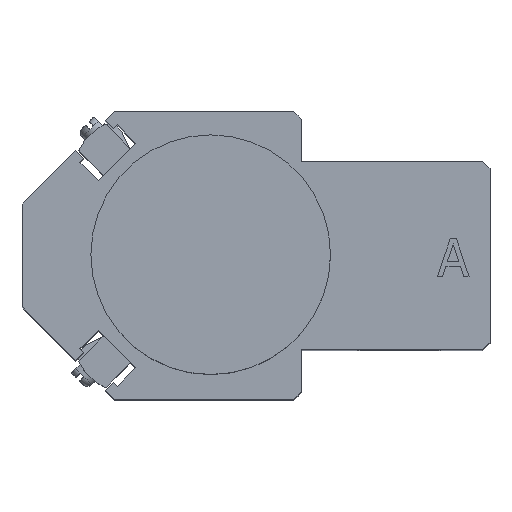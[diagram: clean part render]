
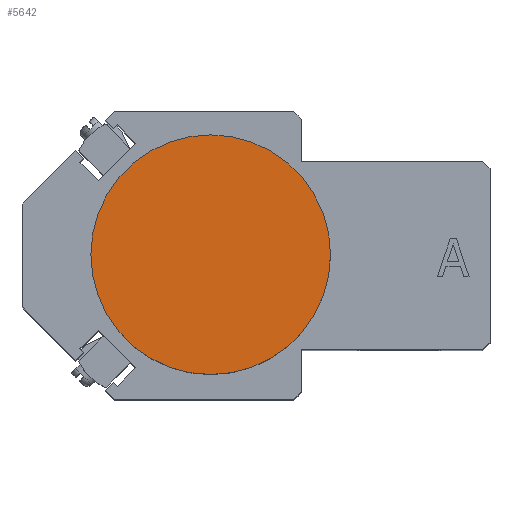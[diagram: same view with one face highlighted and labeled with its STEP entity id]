
A CAD part, top view. The second image highlights one B-rep face of the part: STEP entity #5642.
In plain terms, the highlighted planar face has unit normal (0, 0, 1) as drawn and (1, 0, 0) by its records, which use the part's own axes.
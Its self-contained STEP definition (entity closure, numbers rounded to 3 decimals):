
#480=PLANE('',#6457);
#764=FACE_OUTER_BOUND('',#1101,.T.);
#1101=EDGE_LOOP('',(#5230,#5231));
#2367=CIRCLE('',#6458,15.875);
#2368=CIRCLE('',#6459,15.875);
#2906=VERTEX_POINT('',#9825);
#2907=VERTEX_POINT('',#9826);
#3688=EDGE_CURVE('',#2906,#2907,#2367,.T.);
#3689=EDGE_CURVE('',#2907,#2906,#2368,.T.);
#5230=ORIENTED_EDGE('',*,*,#3688,.F.);
#5231=ORIENTED_EDGE('',*,*,#3689,.F.);
#5642=ADVANCED_FACE('',(#764),#480,.T.);
#6457=AXIS2_PLACEMENT_3D('',#9824,#8059,#8060);
#6458=AXIS2_PLACEMENT_3D('',#9827,#8061,#8062);
#6459=AXIS2_PLACEMENT_3D('',#9828,#8063,#8064);
#8059=DIRECTION('center_axis',(1.,0.,0.));
#8060=DIRECTION('ref_axis',(0.,0.,-1.));
#8061=DIRECTION('center_axis',(-1.,0.,0.));
#8062=DIRECTION('ref_axis',(0.,-1.,0.));
#8063=DIRECTION('center_axis',(-1.,0.,0.));
#8064=DIRECTION('ref_axis',(0.,-1.,0.));
#9824=CARTESIAN_POINT('Origin',(13.,-7.938,0.));
#9825=CARTESIAN_POINT('',(13.,-15.875,0.));
#9826=CARTESIAN_POINT('',(13.,15.875,0.));
#9827=CARTESIAN_POINT('Origin',(13.,0.,0.));
#9828=CARTESIAN_POINT('Origin',(13.,0.,0.));
